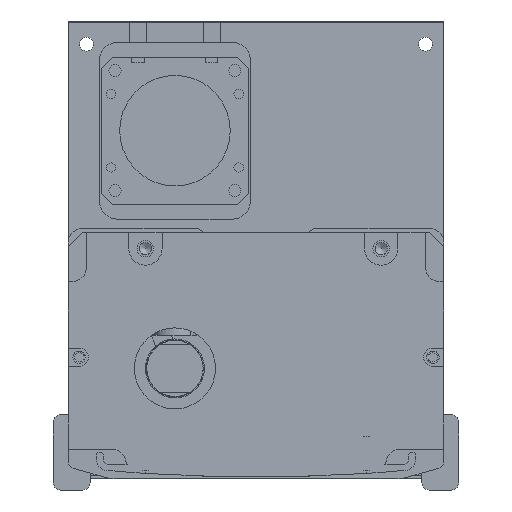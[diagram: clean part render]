
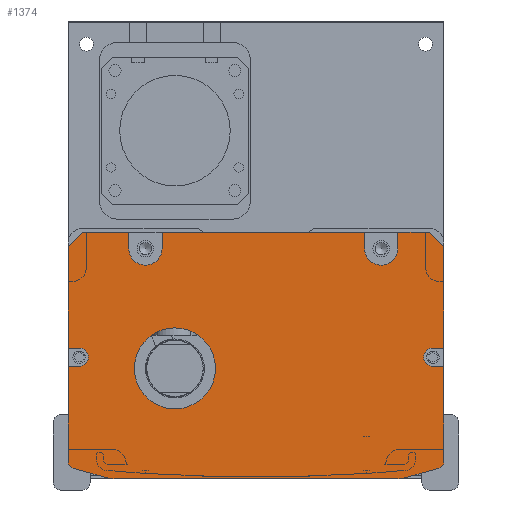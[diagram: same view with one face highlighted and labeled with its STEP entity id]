
A CAD part, front view. The second image highlights one B-rep face of the part: STEP entity #1374.
In plain terms, the highlighted planar face has unit normal (0, -1, 0).
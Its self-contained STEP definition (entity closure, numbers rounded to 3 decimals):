
#1374=ADVANCED_FACE('',(#4064,#4065),#2183,.F.);
#2183=PLANE('',#13348);
#2577=LINE('',#19130,#3339);
#2578=LINE('',#19133,#3340);
#2579=LINE('',#19135,#3341);
#2580=LINE('',#19137,#3342);
#2581=LINE('',#19141,#3343);
#2582=LINE('',#19143,#3344);
#2583=LINE('',#19145,#3345);
#2584=LINE('',#19149,#3346);
#2585=LINE('',#19151,#3347);
#2586=LINE('',#19153,#3348);
#2587=LINE('',#19155,#3349);
#2588=LINE('',#19157,#3350);
#2589=LINE('',#19161,#3351);
#2590=LINE('',#19163,#3352);
#2591=LINE('',#19167,#3353);
#2592=LINE('',#19171,#3354);
#2593=LINE('',#19175,#3355);
#2594=LINE('',#19179,#3356);
#2595=LINE('',#19181,#3357);
#2596=LINE('',#19185,#3358);
#3339=VECTOR('',#15147,1.);
#3340=VECTOR('',#15148,1.);
#3341=VECTOR('',#15149,1.);
#3342=VECTOR('',#15150,1.);
#3343=VECTOR('',#15153,1.);
#3344=VECTOR('',#15154,1.);
#3345=VECTOR('',#15155,1.);
#3346=VECTOR('',#15158,1.);
#3347=VECTOR('',#15159,1.);
#3348=VECTOR('',#15160,1.);
#3349=VECTOR('',#15161,1.);
#3350=VECTOR('',#15162,1.);
#3351=VECTOR('',#15165,1.);
#3352=VECTOR('',#15166,1.);
#3353=VECTOR('',#15169,1.);
#3354=VECTOR('',#15172,1.);
#3355=VECTOR('',#15175,1.);
#3356=VECTOR('',#15178,1.);
#3357=VECTOR('',#15179,1.);
#3358=VECTOR('',#15182,1.);
#4064=FACE_BOUND('',#4790,.T.);
#4065=FACE_BOUND('',#4791,.T.);
#4790=EDGE_LOOP('',(#6129,#6130,#6131,#6132,#6133,#6134,#6135,#6136,#6137,
#6138,#6139,#6140,#6141,#6142,#6143,#6144,#6145,#6146,#6147,#6148,#6149,
#6150,#6151,#6152,#6153,#6154,#6155,#6156));
#4791=EDGE_LOOP('',(#6157));
#6129=ORIENTED_EDGE('',*,*,#10895,.T.);
#6130=ORIENTED_EDGE('',*,*,#10896,.T.);
#6131=ORIENTED_EDGE('',*,*,#10897,.T.);
#6132=ORIENTED_EDGE('',*,*,#10898,.F.);
#6133=ORIENTED_EDGE('',*,*,#10899,.T.);
#6134=ORIENTED_EDGE('',*,*,#10900,.F.);
#6135=ORIENTED_EDGE('',*,*,#10901,.T.);
#6136=ORIENTED_EDGE('',*,*,#10902,.F.);
#6137=ORIENTED_EDGE('',*,*,#10903,.T.);
#6138=ORIENTED_EDGE('',*,*,#10904,.F.);
#6139=ORIENTED_EDGE('',*,*,#10905,.T.);
#6140=ORIENTED_EDGE('',*,*,#10906,.T.);
#6141=ORIENTED_EDGE('',*,*,#10907,.T.);
#6142=ORIENTED_EDGE('',*,*,#10908,.T.);
#6143=ORIENTED_EDGE('',*,*,#10909,.T.);
#6144=ORIENTED_EDGE('',*,*,#10910,.T.);
#6145=ORIENTED_EDGE('',*,*,#10911,.T.);
#6146=ORIENTED_EDGE('',*,*,#10912,.T.);
#6147=ORIENTED_EDGE('',*,*,#10913,.T.);
#6148=ORIENTED_EDGE('',*,*,#10914,.T.);
#6149=ORIENTED_EDGE('',*,*,#10915,.T.);
#6150=ORIENTED_EDGE('',*,*,#10916,.T.);
#6151=ORIENTED_EDGE('',*,*,#10917,.T.);
#6152=ORIENTED_EDGE('',*,*,#10918,.T.);
#6153=ORIENTED_EDGE('',*,*,#10919,.T.);
#6154=ORIENTED_EDGE('',*,*,#10920,.T.);
#6155=ORIENTED_EDGE('',*,*,#10921,.T.);
#6156=ORIENTED_EDGE('',*,*,#10922,.T.);
#6157=ORIENTED_EDGE('',*,*,#10923,.T.);
#9620=VERTEX_POINT('',#19131);
#9621=VERTEX_POINT('',#19132);
#9622=VERTEX_POINT('',#19134);
#9623=VERTEX_POINT('',#19136);
#9624=VERTEX_POINT('',#19138);
#9625=VERTEX_POINT('',#19140);
#9626=VERTEX_POINT('',#19142);
#9627=VERTEX_POINT('',#19144);
#9628=VERTEX_POINT('',#19146);
#9629=VERTEX_POINT('',#19148);
#9630=VERTEX_POINT('',#19150);
#9631=VERTEX_POINT('',#19152);
#9632=VERTEX_POINT('',#19154);
#9633=VERTEX_POINT('',#19156);
#9634=VERTEX_POINT('',#19158);
#9635=VERTEX_POINT('',#19160);
#9636=VERTEX_POINT('',#19162);
#9637=VERTEX_POINT('',#19164);
#9638=VERTEX_POINT('',#19166);
#9639=VERTEX_POINT('',#19168);
#9640=VERTEX_POINT('',#19170);
#9641=VERTEX_POINT('',#19172);
#9642=VERTEX_POINT('',#19174);
#9643=VERTEX_POINT('',#19176);
#9644=VERTEX_POINT('',#19178);
#9645=VERTEX_POINT('',#19180);
#9646=VERTEX_POINT('',#19182);
#9647=VERTEX_POINT('',#19184);
#9648=VERTEX_POINT('',#19187);
#10895=EDGE_CURVE('',#9620,#9621,#2577,.T.);
#10896=EDGE_CURVE('',#9621,#9622,#2578,.T.);
#10897=EDGE_CURVE('',#9622,#9623,#2579,.T.);
#10898=EDGE_CURVE('',#9624,#9623,#2580,.T.);
#10899=EDGE_CURVE('',#9624,#9625,#12546,.T.);
#10900=EDGE_CURVE('',#9626,#9625,#2581,.T.);
#10901=EDGE_CURVE('',#9626,#9627,#2582,.T.);
#10902=EDGE_CURVE('',#9628,#9627,#2583,.T.);
#10903=EDGE_CURVE('',#9628,#9629,#12547,.T.);
#10904=EDGE_CURVE('',#9630,#9629,#2584,.T.);
#10905=EDGE_CURVE('',#9630,#9631,#2585,.T.);
#10906=EDGE_CURVE('',#9631,#9632,#2586,.T.);
#10907=EDGE_CURVE('',#9632,#9633,#2587,.T.);
#10908=EDGE_CURVE('',#9633,#9634,#2588,.T.);
#10909=EDGE_CURVE('',#9634,#9635,#12548,.T.);
#10910=EDGE_CURVE('',#9635,#9636,#2589,.T.);
#10911=EDGE_CURVE('',#9636,#9637,#2590,.T.);
#10912=EDGE_CURVE('',#9637,#9638,#12549,.T.);
#10913=EDGE_CURVE('',#9638,#9639,#2591,.T.);
#10914=EDGE_CURVE('',#9639,#9640,#12550,.T.);
#10915=EDGE_CURVE('',#9640,#9641,#2592,.T.);
#10916=EDGE_CURVE('',#9641,#9642,#12551,.T.);
#10917=EDGE_CURVE('',#9642,#9643,#2593,.T.);
#10918=EDGE_CURVE('',#9643,#9644,#12552,.T.);
#10919=EDGE_CURVE('',#9644,#9645,#2594,.T.);
#10920=EDGE_CURVE('',#9645,#9646,#2595,.T.);
#10921=EDGE_CURVE('',#9646,#9647,#12553,.T.);
#10922=EDGE_CURVE('',#9647,#9620,#2596,.T.);
#10923=EDGE_CURVE('',#9648,#9648,#12554,.T.);
#12546=CIRCLE('',#13339,4.5);
#12547=CIRCLE('',#13340,4.5);
#12548=CIRCLE('',#13341,2.5);
#12549=CIRCLE('',#13342,2.);
#12550=CIRCLE('',#13343,10.);
#12551=CIRCLE('',#13344,10.);
#12552=CIRCLE('',#13345,2.);
#12553=CIRCLE('',#13346,2.5);
#12554=CIRCLE('',#13347,11.);
#13339=AXIS2_PLACEMENT_3D('',#19139,#15151,#15152);
#13340=AXIS2_PLACEMENT_3D('',#19147,#15156,#15157);
#13341=AXIS2_PLACEMENT_3D('',#19159,#15163,#15164);
#13342=AXIS2_PLACEMENT_3D('',#19165,#15167,#15168);
#13343=AXIS2_PLACEMENT_3D('',#19169,#15170,#15171);
#13344=AXIS2_PLACEMENT_3D('',#19173,#15173,#15174);
#13345=AXIS2_PLACEMENT_3D('',#19177,#15176,#15177);
#13346=AXIS2_PLACEMENT_3D('',#19183,#15180,#15181);
#13347=AXIS2_PLACEMENT_3D('',#19186,#15183,#15184);
#13348=AXIS2_PLACEMENT_3D('',#19188,#15185,#15186);
#15147=DIRECTION('',(0.,0.,1.));
#15148=DIRECTION('',(-0.707,0.,0.707));
#15149=DIRECTION('',(-1.,0.,0.));
#15150=DIRECTION('',(0.,0.,1.));
#15151=DIRECTION('',(0.,1.,0.));
#15152=DIRECTION('',(0.,0.,1.));
#15153=DIRECTION('',(0.,0.,-1.));
#15154=DIRECTION('',(-1.,0.,0.));
#15155=DIRECTION('',(0.,0.,1.));
#15156=DIRECTION('',(0.,1.,0.));
#15157=DIRECTION('',(0.,0.,1.));
#15158=DIRECTION('',(0.,0.,-1.));
#15159=DIRECTION('',(-1.,0.,0.));
#15160=DIRECTION('',(-0.707,0.,-0.707));
#15161=DIRECTION('',(0.,0.,-1.));
#15162=DIRECTION('',(1.,0.,0.));
#15163=DIRECTION('',(0.,1.,0.));
#15164=DIRECTION('',(0.,0.,1.));
#15165=DIRECTION('',(-1.,0.,0.));
#15166=DIRECTION('',(0.,0.,-1.));
#15167=DIRECTION('',(0.,-1.,0.));
#15168=DIRECTION('',(0.,0.,1.));
#15169=DIRECTION('',(0.963,0.,-0.269));
#15170=DIRECTION('',(0.,-1.,0.));
#15171=DIRECTION('',(0.,0.,1.));
#15172=DIRECTION('',(1.,0.,0.));
#15173=DIRECTION('',(0.,-1.,0.));
#15174=DIRECTION('',(0.,0.,-1.));
#15175=DIRECTION('',(0.963,0.,0.269));
#15176=DIRECTION('',(0.,-1.,0.));
#15177=DIRECTION('',(0.,0.,-1.));
#15178=DIRECTION('',(0.,0.,1.));
#15179=DIRECTION('',(-1.,0.,0.));
#15180=DIRECTION('',(0.,1.,0.));
#15181=DIRECTION('',(0.,0.,1.));
#15182=DIRECTION('',(1.,0.,0.));
#15183=DIRECTION('',(0.,1.,0.));
#15184=DIRECTION('',(0.,0.,1.));
#15185=DIRECTION('',(0.,1.,0.));
#15186=DIRECTION('',(-1.,0.,0.));
#19130=CARTESIAN_POINT('',(47.808,-867.5,-1.));
#19131=CARTESIAN_POINT('',(47.808,-867.5,-32.5));
#19132=CARTESIAN_POINT('',(47.808,-867.5,-5.));
#19133=CARTESIAN_POINT('',(43.808,-867.5,-1.));
#19134=CARTESIAN_POINT('',(43.808,-867.5,-1.));
#19135=CARTESIAN_POINT('',(-3.192,-867.5,-1.));
#19136=CARTESIAN_POINT('',(35.308,-867.5,-1.));
#19137=CARTESIAN_POINT('',(35.308,-867.5,-1.));
#19138=CARTESIAN_POINT('',(35.308,-867.5,-5.5));
#19139=CARTESIAN_POINT('',(30.808,-867.5,-5.5));
#19140=CARTESIAN_POINT('',(26.308,-867.5,-5.5));
#19141=CARTESIAN_POINT('',(26.308,-867.5,-1.));
#19142=CARTESIAN_POINT('',(26.308,-867.5,-1.));
#19143=CARTESIAN_POINT('',(-54.192,-867.5,-1.));
#19144=CARTESIAN_POINT('',(-28.692,-867.5,-1.));
#19145=CARTESIAN_POINT('',(-28.692,-867.5,-3.5));
#19146=CARTESIAN_POINT('',(-28.692,-867.5,-5.5));
#19147=CARTESIAN_POINT('',(-33.192,-867.5,-5.5));
#19148=CARTESIAN_POINT('',(-37.692,-867.5,-5.5));
#19149=CARTESIAN_POINT('',(-37.692,-867.5,-1.));
#19150=CARTESIAN_POINT('',(-37.692,-867.5,-1.));
#19151=CARTESIAN_POINT('',(-54.192,-867.5,-1.));
#19152=CARTESIAN_POINT('',(-50.192,-867.5,-1.));
#19153=CARTESIAN_POINT('',(-54.192,-867.5,-5.));
#19154=CARTESIAN_POINT('',(-54.192,-867.5,-5.));
#19155=CARTESIAN_POINT('',(-54.192,-867.5,-62.));
#19156=CARTESIAN_POINT('',(-54.192,-867.5,-32.5));
#19157=CARTESIAN_POINT('',(-3.192,-867.5,-32.5));
#19158=CARTESIAN_POINT('',(-51.192,-867.5,-32.5));
#19159=CARTESIAN_POINT('',(-51.192,-867.5,-35.));
#19160=CARTESIAN_POINT('',(-51.192,-867.5,-37.5));
#19161=CARTESIAN_POINT('',(-3.192,-867.5,-37.5));
#19162=CARTESIAN_POINT('',(-54.192,-867.5,-37.5));
#19163=CARTESIAN_POINT('',(-54.192,-867.5,-62.));
#19164=CARTESIAN_POINT('',(-54.192,-867.5,-63.212));
#19165=CARTESIAN_POINT('',(-52.192,-867.5,-63.212));
#19166=CARTESIAN_POINT('',(-52.731,-867.5,-65.138));
#19167=CARTESIAN_POINT('',(-55.807,-867.5,-64.279));
#19168=CARTESIAN_POINT('',(-43.809,-867.5,-67.631));
#19169=CARTESIAN_POINT('',(-41.118,-867.5,-58.));
#19170=CARTESIAN_POINT('',(-41.118,-867.5,-68.));
#19171=CARTESIAN_POINT('',(-54.692,-867.5,-68.));
#19172=CARTESIAN_POINT('',(34.733,-867.5,-68.));
#19173=CARTESIAN_POINT('',(34.733,-867.5,-58.));
#19174=CARTESIAN_POINT('',(37.424,-867.5,-67.631));
#19175=CARTESIAN_POINT('',(49.422,-867.5,-64.279));
#19176=CARTESIAN_POINT('',(46.346,-867.5,-65.138));
#19177=CARTESIAN_POINT('',(45.808,-867.5,-63.212));
#19178=CARTESIAN_POINT('',(47.808,-867.5,-63.212));
#19179=CARTESIAN_POINT('',(47.808,-867.5,-1.));
#19180=CARTESIAN_POINT('',(47.808,-867.5,-37.5));
#19181=CARTESIAN_POINT('',(-3.192,-867.5,-37.5));
#19182=CARTESIAN_POINT('',(44.808,-867.5,-37.5));
#19183=CARTESIAN_POINT('',(44.808,-867.5,-35.));
#19184=CARTESIAN_POINT('',(44.808,-867.5,-32.5));
#19185=CARTESIAN_POINT('',(-3.192,-867.5,-32.5));
#19186=CARTESIAN_POINT('',(-25.192,-867.5,-38.));
#19187=CARTESIAN_POINT('',(-25.192,-867.5,-27.));
#19188=CARTESIAN_POINT('',(-3.192,-867.5,-1.));
